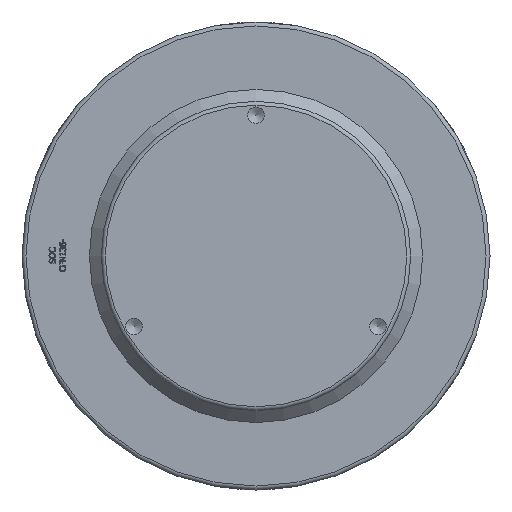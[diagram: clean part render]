
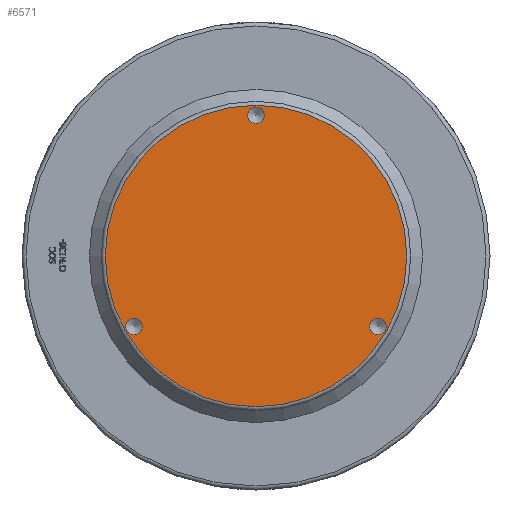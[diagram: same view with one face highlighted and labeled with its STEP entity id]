
A CAD part, front view. The second image highlights one B-rep face of the part: STEP entity #6571.
In plain terms, the highlighted planar face has unit normal (0, -1, 0) as drawn and (0, 1, 0) by its records, which use the part's own axes.
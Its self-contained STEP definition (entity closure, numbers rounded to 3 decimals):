
#100=PLANE('',#6903);
#1888=FACE_BOUND('',#2507,.T.);
#1889=FACE_BOUND('',#2508,.T.);
#1890=FACE_BOUND('',#2509,.T.);
#2118=FACE_OUTER_BOUND('',#2506,.T.);
#2506=EDGE_LOOP('',(#5371));
#2507=EDGE_LOOP('',(#5372));
#2508=EDGE_LOOP('',(#5373));
#2509=EDGE_LOOP('',(#5374));
#2741=CIRCLE('',#6821,10.376);
#2743=CIRCLE('',#6825,10.376);
#2745=CIRCLE('',#6829,10.376);
#2747=CIRCLE('',#6901,190.);
#2767=VERTEX_POINT('',#7966);
#2769=VERTEX_POINT('',#7972);
#2771=VERTEX_POINT('',#7978);
#3089=VERTEX_POINT('',#10256);
#3435=EDGE_CURVE('',#2767,#2767,#2741,.T.);
#3437=EDGE_CURVE('',#2769,#2769,#2743,.T.);
#3439=EDGE_CURVE('',#2771,#2771,#2745,.T.);
#3915=EDGE_CURVE('',#3089,#3089,#2747,.T.);
#5371=ORIENTED_EDGE('',*,*,#3915,.F.);
#5372=ORIENTED_EDGE('',*,*,#3435,.T.);
#5373=ORIENTED_EDGE('',*,*,#3437,.T.);
#5374=ORIENTED_EDGE('',*,*,#3439,.T.);
#6571=ADVANCED_FACE('',(#2118,#1888,#1889,#1890),#100,.T.);
#6821=AXIS2_PLACEMENT_3D('',#7967,#7027,#7028);
#6825=AXIS2_PLACEMENT_3D('',#7973,#7035,#7036);
#6829=AXIS2_PLACEMENT_3D('',#7979,#7043,#7044);
#6901=AXIS2_PLACEMENT_3D('',#10257,#7459,#7460);
#6903=AXIS2_PLACEMENT_3D('',#10260,#7463,#7464);
#7027=DIRECTION('center_axis',(0.,-1.,0.));
#7028=DIRECTION('ref_axis',(-0.5,0.,-0.866));
#7035=DIRECTION('center_axis',(0.,-1.,0.));
#7036=DIRECTION('ref_axis',(-0.5,0.,0.866));
#7043=DIRECTION('center_axis',(0.,-1.,0.));
#7044=DIRECTION('ref_axis',(1.,0.,0.));
#7459=DIRECTION('center_axis',(0.,-1.,0.));
#7460=DIRECTION('ref_axis',(-1.,0.,0.));
#7463=DIRECTION('center_axis',(0.,1.,0.));
#7464=DIRECTION('ref_axis',(0.,0.,1.));
#7966=CARTESIAN_POINT('',(148.532,357.,-97.736));
#7967=CARTESIAN_POINT('Origin',(153.72,357.,-88.75));
#7972=CARTESIAN_POINT('',(-158.908,357.,-79.764));
#7973=CARTESIAN_POINT('Origin',(-153.72,357.,-88.75));
#7978=CARTESIAN_POINT('',(10.376,357.,177.5));
#7979=CARTESIAN_POINT('Origin',(0.,357.,177.5));
#10256=CARTESIAN_POINT('',(190.,357.,0.));
#10257=CARTESIAN_POINT('Origin',(0.,357.,0.));
#10260=CARTESIAN_POINT('Origin',(195.,357.,0.));
